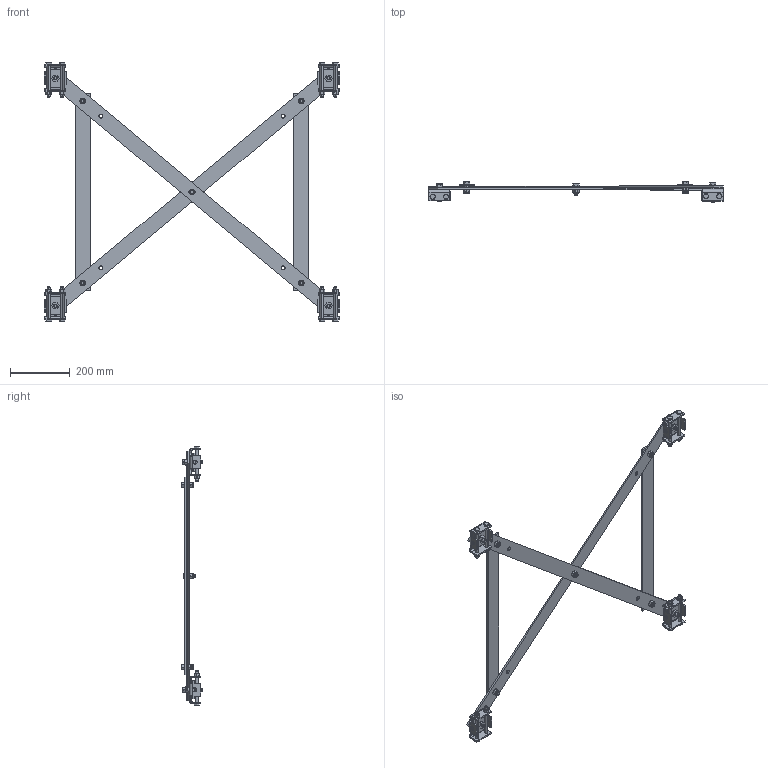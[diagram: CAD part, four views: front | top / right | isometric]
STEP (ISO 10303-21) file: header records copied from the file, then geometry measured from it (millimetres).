
FILE_DESCRIPTION (( 'STEP AP214' ), '1' );
FILE_NAME ('MRAA4205-30.001.STEP', '2018-11-19T18:53:27', ( 'IT' ), ( '' ), 'SwSTEP 2.0', 'SolidWorks 2018', '' );
FILE_SCHEMA (( 'AUTOMOTIVE_DESIGN' ));
Length unit declared in the file: inch
Products named in the file (13): M12x1.75x_HHCS_30 MM Long; HL3_M12; M12x1.75x_HHCS_50 MM Long; MRWD4089-01.001; M10_NYLOK; M12_LOCK_WASHER; MRWD4089.001; RAD4167.001; RWD4103.001; MRAA4205-30.001; RAD4168.001; M10x1.5x_HHCS_110 MM Long; M12_NYLOK
Assembly tree (48 placements, depth 3):
  MRAA4205-30.001
    RAD4167.001  x2
    RAD4168.001  x2
    RWD4103.001  x4
    MRWD4089.001  x4
      MRWD4089-01.001
      HL3_M12
    M12_LOCK_WASHER  x4
    M12x1.75x_HHCS_50 MM Long  x4
    M12x1.75x_HHCS_30 MM Long  x5
    M12_NYLOK  x5
    M10_NYLOK  x8
    M10x1.5x_HHCS_110 MM Long  x8
Bounding box: 987.42 x 68.2 x 866.88 mm (x, y, z)
Volume: 1697151.5 mm3; surface area: 666364.1 mm2
Topology: 50 solids, 50 shells, 1154 faces, 2674 edges, 1646 vertices
Faces by surface type: plane 482, cylinder 378, torus 142, cone 136, bspline 16
Entity records: 9104 total; most frequent: CARTESIAN_POINT 2479, DIRECTION 1288, ORIENTED_EDGE 1176, EDGE_CURVE 588, AXIS2_PLACEMENT_3D 507, VERTEX_POINT 366, EDGE_LOOP 298, VECTOR 274
